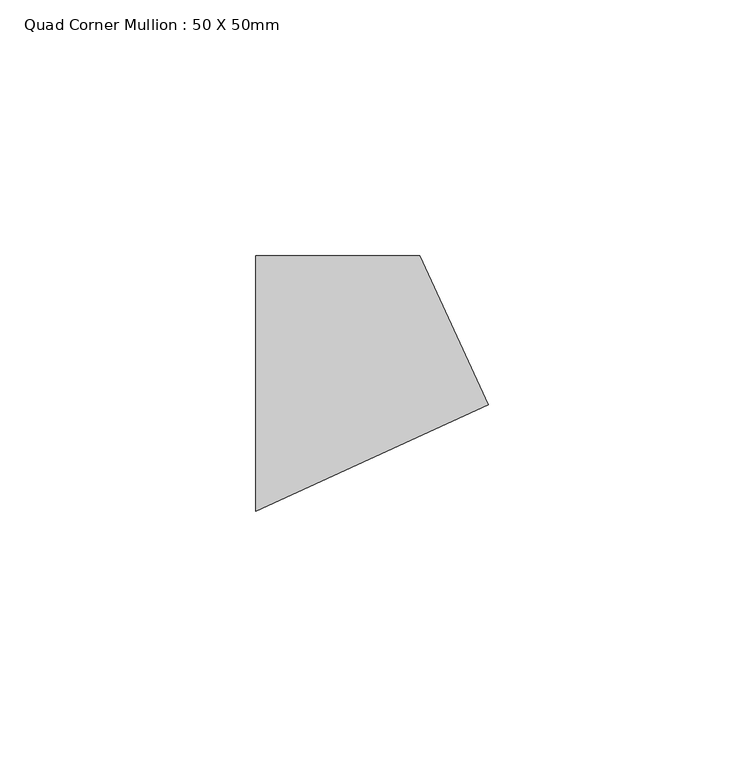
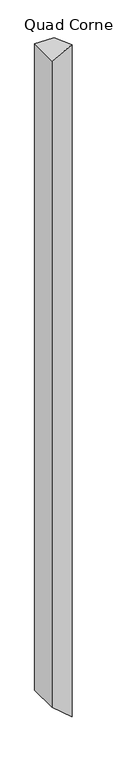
"""IFC4 building model written with IfcOpenShell, lengths in millimetres: member geometry, Quad Corner Mullion : 50 X 50mm."""

from ifc_helpers import new_model, si_unit, origin, place, context, project, spatial, faceted_brep, source, transform, mapped, element, save


def quad_corner_mullion_50_x_50mm_b15fb04c(model_context):
    return source(origin(), model_context, "Body", "Brep", [
        faceted_brep([(29.4125559, -4.1926582, 0.0), (16.0523154, 25.0, 0.0), (-16.0523154, 25.0, 0.0), (-16.0523154, -25.0, 0.0), (29.4125559, -4.1926582, -1187.4226769), (16.0523154, 25.0, -1174.0000147), (-16.0523154, 25.0, -1141.7453849), (-16.0523154, -25.0, -1141.7453849)], [[[0, 1, 2, 3]], [[1, 0, 4, 5]], [[2, 1, 5, 6]], [[3, 2, 6, 7]], [[0, 3, 7, 4]], [[4, 7, 6, 5]]]),
    ])


if __name__ == "__main__":
    model = new_model("IFC4")
    model_context = context("Model", 3, world=origin())
    ifc_project = project(units=[si_unit("LENGTHUNIT", "METRE", prefix="MILLI")], contexts=[model_context])
    site = spatial("IfcSite", under=ifc_project)
    building = spatial("IfcBuilding", under=site)
    placement = place(None, origin())
    quad_corner_mullion_50_x_50mm_shape = quad_corner_mullion_50_x_50mm_b15fb04c(model_context)
    element("IfcMember", 1, ObjectType="Quad Corner Mullion : 50 X 50mm", at=placement, inside=building, context=model_context, shape_type="MappedRepresentation", body=[
        mapped(quad_corner_mullion_50_x_50mm_shape, transform((0.0, 0.0, 0.0), x_axis=(1.0, 0.0, 0.0), y_axis=(0.0, 1.0, 0.0), z_axis=(0.0, 0.0, 1.0))),
    ])
    save(model, "model.ifc")
